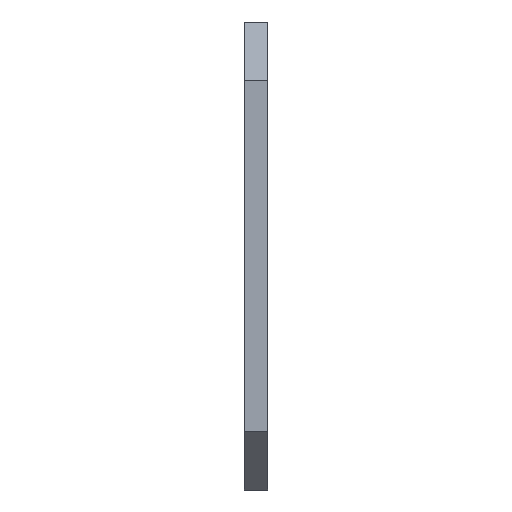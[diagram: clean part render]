
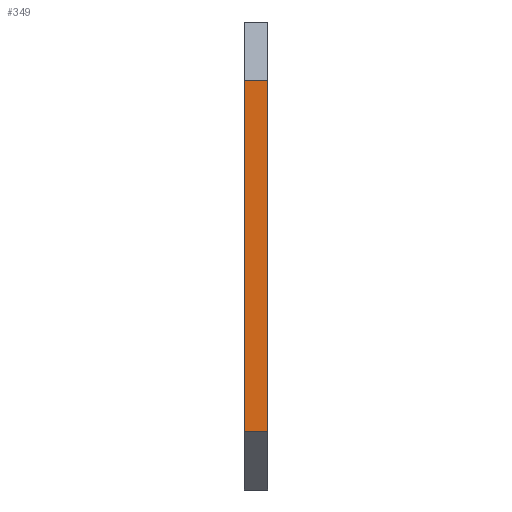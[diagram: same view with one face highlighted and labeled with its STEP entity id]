
A CAD part, left-side view. The second image highlights one B-rep face of the part: STEP entity #349.
In plain terms, the highlighted planar face has unit normal (-1, 0, 0).
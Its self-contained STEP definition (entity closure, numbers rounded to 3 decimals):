
#43 = PLANE ( 'NONE',  #908 ) ;
#46 = CARTESIAN_POINT ( 'NONE',  ( -35., 2., -15. ) ) ;
#73 = VECTOR ( 'NONE', #860, 1000. ) ;
#77 = ORIENTED_EDGE ( 'NONE', *, *, #893, .T. ) ;
#176 = VECTOR ( 'NONE', #221, 1000. ) ;
#202 = CARTESIAN_POINT ( 'NONE',  ( -35., 2., 20. ) ) ;
#216 = CARTESIAN_POINT ( 'NONE',  ( -35., 2., 15. ) ) ;
#221 = DIRECTION ( 'NONE',  ( 0., -1., 0. ) ) ;
#282 = EDGE_CURVE ( 'NONE', #897, #316, #1035, .T. ) ;
#283 = LINE ( 'NONE', #202, #777 ) ;
#284 = ORIENTED_EDGE ( 'NONE', *, *, #1005, .T. ) ;
#316 = VERTEX_POINT ( 'NONE', #1040 ) ;
#349 = ADVANCED_FACE ( 'NONE', ( #363 ), #43, .T. ) ;
#361 = VECTOR ( 'NONE', #627, 1000. ) ;
#363 = FACE_OUTER_BOUND ( 'NONE', #689, .T. ) ;
#384 = DIRECTION ( 'NONE',  ( 0., 0., 1. ) ) ;
#455 = CARTESIAN_POINT ( 'NONE',  ( -35., 0., 20. ) ) ;
#524 = DIRECTION ( 'NONE',  ( 0., 0., -1. ) ) ;
#525 = VERTEX_POINT ( 'NONE', #674 ) ;
#534 = CARTESIAN_POINT ( 'NONE',  ( -35., 2., 15. ) ) ;
#627 = DIRECTION ( 'NONE',  ( 0., 1., 0. ) ) ;
#664 = DIRECTION ( 'NONE',  ( -1., 0., 0. ) ) ;
#674 = CARTESIAN_POINT ( 'NONE',  ( -35., 0., 15. ) ) ;
#689 = EDGE_LOOP ( 'NONE', ( #284, #1020, #752, #77 ) ) ;
#698 = LINE ( 'NONE', #455, #73 ) ;
#752 = ORIENTED_EDGE ( 'NONE', *, *, #839, .F. ) ;
#777 = VECTOR ( 'NONE', #524, 1000. ) ;
#808 = VERTEX_POINT ( 'NONE', #534 ) ;
#839 = EDGE_CURVE ( 'NONE', #525, #316, #698, .T. ) ;
#860 = DIRECTION ( 'NONE',  ( 0., 0., -1. ) ) ;
#893 = EDGE_CURVE ( 'NONE', #525, #808, #1030, .T. ) ;
#897 = VERTEX_POINT ( 'NONE', #46 ) ;
#908 = AXIS2_PLACEMENT_3D ( 'NONE', #1066, #664, #384 ) ;
#950 = CARTESIAN_POINT ( 'NONE',  ( -35., 0., -15. ) ) ;
#1005 = EDGE_CURVE ( 'NONE', #808, #897, #283, .T. ) ;
#1020 = ORIENTED_EDGE ( 'NONE', *, *, #282, .T. ) ;
#1030 = LINE ( 'NONE', #216, #361 ) ;
#1035 = LINE ( 'NONE', #950, #176 ) ;
#1040 = CARTESIAN_POINT ( 'NONE',  ( -35., 0., -15. ) ) ;
#1066 = CARTESIAN_POINT ( 'NONE',  ( -35., 0., 20. ) ) ;
